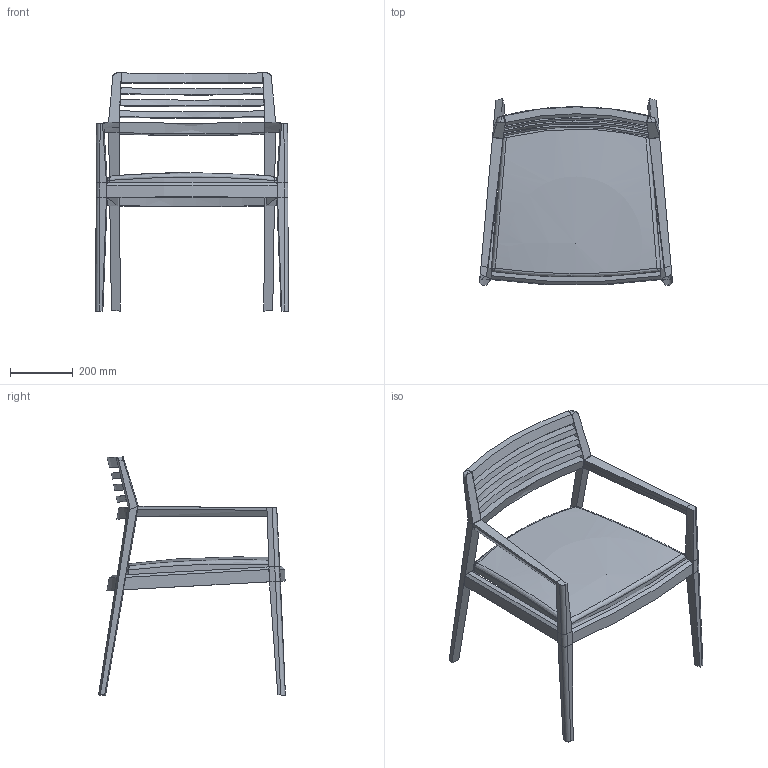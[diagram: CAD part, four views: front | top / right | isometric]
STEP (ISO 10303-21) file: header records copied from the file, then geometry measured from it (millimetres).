
FILE_DESCRIPTION(/* description */ ('','CAx-IF Rec.Pracs.---Representation and Presentation of Product Manufacturing Information (PMI)---4.0---2014-10-13'),/* implementation_level */ '2;1');
FILE_NAME(/* name */ 'Pentero_230_LB.step',/* time_stamp */ '2025-02-18T08:11:29-08:00',/* author */ (''),/* organization */ (''),/* preprocessor_version */ 'ST-DEVELOPER v20',/* originating_system */ 'Autodesk Translation Framework v13.20.0.188',/* authorisation */ '');
FILE_SCHEMA (('AP242_MANAGED_MODEL_BASED_3D_ENGINEERING_MIM_LF { 1 0 10303 442 1 1 4 }'));
Length unit declared in the file: inch
Products named in the file (1): 1
Bounding box: 614.51 x 595.72 x 759.04 mm (x, y, z)
Volume: 14995788.6 mm3; surface area: 1478721.9 mm2
Topology: 15 solids, 16 shells, 245 faces, 607 edges, 391 vertices
Faces by surface type: bspline 95, plane 79, cylinder 70, sphere 1
Full cylindrical faces by diameter (mm): 6 x2, 13.155 x2
Entity records: 10181 total; most frequent: CARTESIAN_POINT 5129, ORIENTED_EDGE 1191, DIRECTION 749, EDGE_CURVE 598, VERTEX_POINT 391, LINE 257, VECTOR 257, EDGE_LOOP 253
